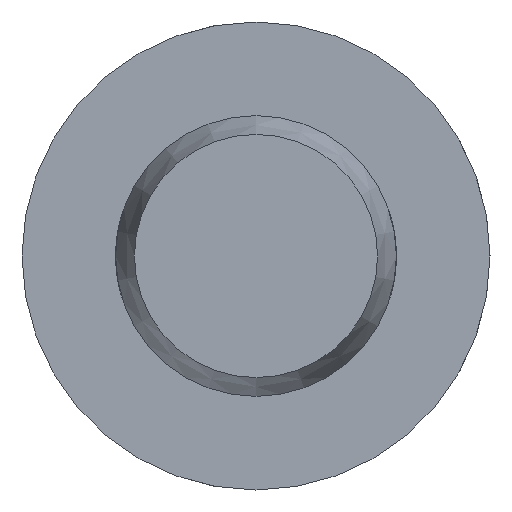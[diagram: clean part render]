
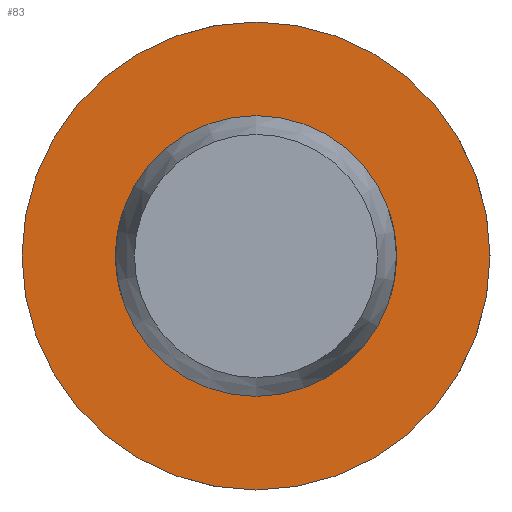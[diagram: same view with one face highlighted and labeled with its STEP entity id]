
A CAD part, left-side view. The second image highlights one B-rep face of the part: STEP entity #83.
In plain terms, the highlighted planar face has unit normal (-1, 0, 0).
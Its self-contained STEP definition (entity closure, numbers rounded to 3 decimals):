
#83 = ADVANCED_FACE( '', ( #129, #130 ), #131, .F. );
#129 = FACE_OUTER_BOUND( '', #208, .T. );
#130 = FACE_BOUND( '', #209, .T. );
#131 = PLANE( '', #210 );
#208 = EDGE_LOOP( '', ( #325 ) );
#209 = EDGE_LOOP( '', ( #326 ) );
#210 = AXIS2_PLACEMENT_3D( '', #327, #328, #329 );
#325 = ORIENTED_EDGE( '', *, *, #493, .F. );
#326 = ORIENTED_EDGE( '', *, *, #483, .T. );
#327 = CARTESIAN_POINT( '', ( 22., 3., 0. ) );
#328 = DIRECTION( '', ( 1., 0., 0. ) );
#329 = DIRECTION( '', ( 0., 0., -1. ) );
#483 = EDGE_CURVE( '', #554, #554, #555, .T. );
#493 = EDGE_CURVE( '', #572, #572, #573, .T. );
#554 = VERTEX_POINT( '', #741 );
#555 = CIRCLE( '', #742, 3. );
#572 = VERTEX_POINT( '', #850 );
#573 = CIRCLE( '', #851, 5. );
#741 = CARTESIAN_POINT( '', ( 22., 0., -3. ) );
#742 = AXIS2_PLACEMENT_3D( '', #914, #915, #916 );
#850 = CARTESIAN_POINT( '', ( 22., 0., -5. ) );
#851 = AXIS2_PLACEMENT_3D( '', #935, #936, #937 );
#914 = CARTESIAN_POINT( '', ( 22., 0., 0. ) );
#915 = DIRECTION( '', ( 1., 0., 0. ) );
#916 = DIRECTION( '', ( 0., 0., -1. ) );
#935 = CARTESIAN_POINT( '', ( 22., 0., 0. ) );
#936 = DIRECTION( '', ( 1., 0., 0. ) );
#937 = DIRECTION( '', ( 0., 0., -1. ) );
